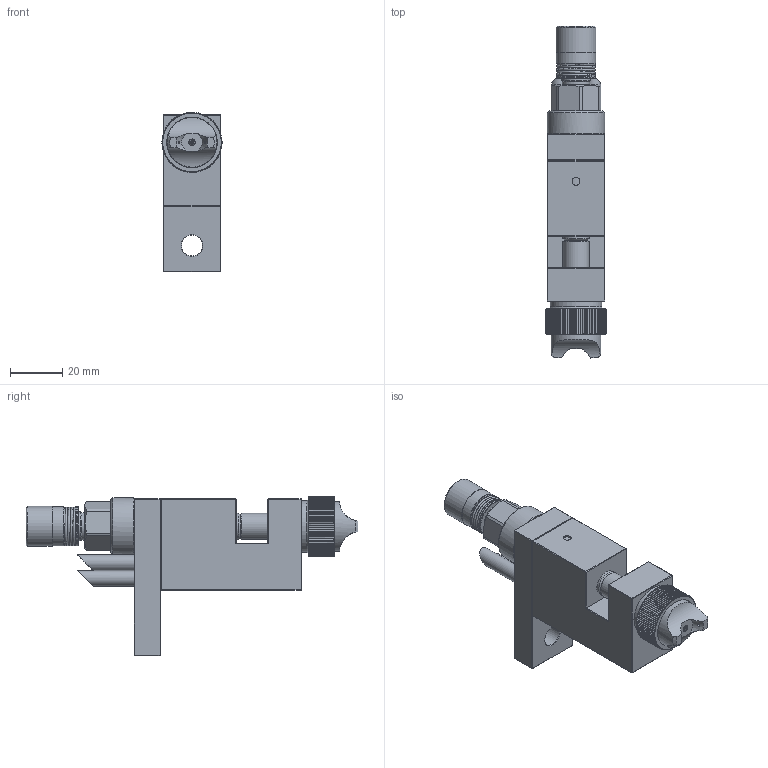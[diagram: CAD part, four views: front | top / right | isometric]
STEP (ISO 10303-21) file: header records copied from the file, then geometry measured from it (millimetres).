
FILE_DESCRIPTION (( 'STEP AP214' ), '1' );
FILE_NAME ('DAS-100-CO.STEP', '2024-10-11T10:13:54', ( '' ), ( '' ), 'SwSTEP 2.0', 'SolidWorks 2024', '' );
FILE_SCHEMA (( 'AUTOMOTIVE_DESIGN' ));
Length unit declared in the file: millimetre
Products named in the file (1): DAS-100-CO
Bounding box: 23 x 127.1 x 61 mm (x, y, z)
Volume: 66373.6 mm3; surface area: 20874.9 mm2
Topology: 2 solids, 12 shells, 733 faces, 1775 edges, 1091 vertices
Faces by surface type: cylinder 294, cone 264, plane 162, bspline 13
Full cylindrical faces by diameter (mm): 0.3 x1, 1 x2, 2.05 x2, 2.4 x5, 2.5 x2, 3 x1, 3.3 x3, 3.5 x1, 4 x6, 4.2 x1, 4.9 x1, 5 x2, 6 x4, 7 x3, 8 x9, 10 x1, 10.5 x1, 11.1 x1, 12 x1, 15 x2, 15.3 x1, 19 x1, 19.8 x1, 21.9 x1
Entity records: 24225 total; most frequent: CARTESIAN_POINT 8533, ORIENTED_EDGE 3224, DIRECTION 3138, EDGE_CURVE 1612, AXIS2_PLACEMENT_3D 1326, VERTEX_POINT 1034, EDGE_LOOP 888, FACE_OUTER_BOUND 792
